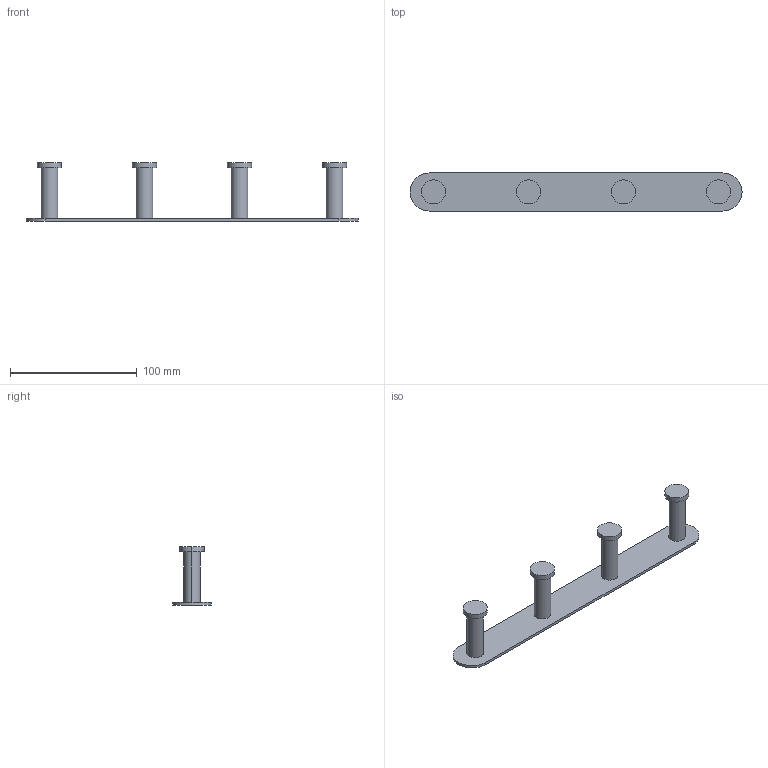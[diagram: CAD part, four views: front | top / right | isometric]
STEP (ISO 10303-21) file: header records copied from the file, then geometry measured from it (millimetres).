
FILE_DESCRIPTION((''),'2;1');
FILE_NAME('GC3314-0000_ASM','2021-11-18T16:21:20',('Administrator'),(''),'CREO PARAMETRIC BY PTC INC, 2019471','CREO PARAMETRIC BY PTC INC, 2019471','');
FILE_SCHEMA(('CONFIG_CONTROL_DESIGN'));
Length unit declared in the file: millimetre
Products named in the file (8): GC4-01; 1018000; GC52-1201; GC52-1203; GC52-1202; M4X10-0; M4X8-0; GC3314-0000_ASM
Assembly tree (17 placements, depth 2):
  GC3314-0000_ASM
    GC4-01
    1018000  x2
    GC52-1201  x2
    GC52-1203  x2
    GC52-1202  x4
    M4X10-0  x4
    M4X8-0  x2
Bounding box: 262 x 30 x 46.2 mm (x, y, z)
Volume: 38969 mm3; surface area: 34220.8 mm2
Topology: 17 solids, 29 shells, 568 faces, 1490 edges, 970 vertices
Faces by surface type: cylinder 318, plane 102, bspline 80, cone 68
Entity records: 17965 total; most frequent: CARTESIAN_POINT 12813, ORIENTED_EDGE 1090, DIRECTION 900, EDGE_CURVE 555, VERTEX_POINT 362, AXIS2_PLACEMENT_3D 336, EDGE_LOOP 237, VECTOR 228
